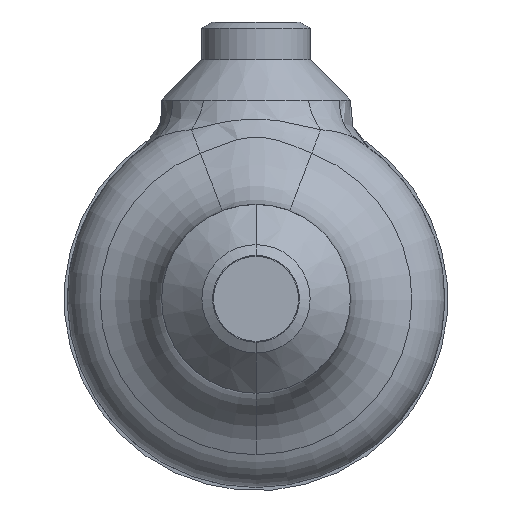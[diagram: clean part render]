
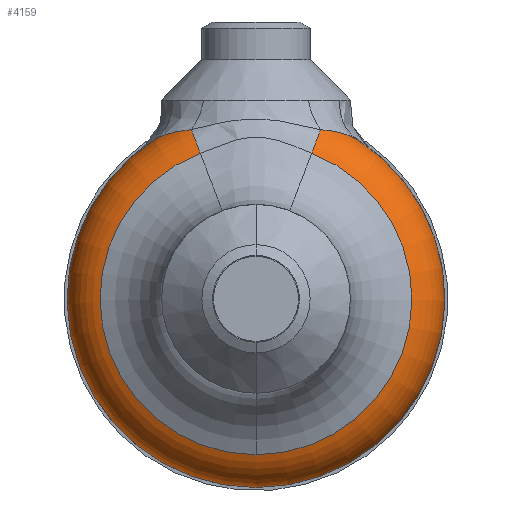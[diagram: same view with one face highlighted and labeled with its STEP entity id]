
A CAD part, front view. The second image highlights one B-rep face of the part: STEP entity #4159.
In plain terms, the highlighted toroidal (fillet/blend) face has major radius 22 mm and minor radius 8 mm.
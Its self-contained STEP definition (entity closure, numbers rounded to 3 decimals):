
#168 = CIRCLE ( 'NONE', #169, 8. ) ;
#169 = AXIS2_PLACEMENT_3D ( 'NONE', #170, #171, #172 ) ;
#170 = CARTESIAN_POINT ( 'NONE',  ( -7.856, -47., 20.55 ) ) ;
#171 = DIRECTION ( 'NONE',  ( -0.934, 0., -0.357 ) ) ;
#172 = DIRECTION ( 'NONE',  ( -0.357, 0., 0.934 ) ) ;
#173 = B_SPLINE_CURVE_WITH_KNOTS ( 'NONE', 3,
 ( #174, #175, #176, #177, #178, #179, #180, #181, #182, #183, #184, #185 ),
 .UNSPECIFIED., .F., .F.,
 ( 4, 2, 2, 2, 2, 4 ),
 ( 0., 0.002, 0.004, 0.006, 0.007, 0.007 ),
 .UNSPECIFIED. ) ;
#174 = CARTESIAN_POINT ( 'NONE',  ( -10.279, -51.237, 26.888 ) ) ;
#175 = CARTESIAN_POINT ( 'NONE',  ( -10.849, -50.979, 26.843 ) ) ;
#176 = CARTESIAN_POINT ( 'NONE',  ( -11.402, -50.696, 26.781 ) ) ;
#177 = CARTESIAN_POINT ( 'NONE',  ( -12.476, -50.082, 26.616 ) ) ;
#178 = CARTESIAN_POINT ( 'NONE',  ( -12.998, -49.75, 26.511 ) ) ;
#179 = CARTESIAN_POINT ( 'NONE',  ( -13.995, -49.038, 26.252 ) ) ;
#180 = CARTESIAN_POINT ( 'NONE',  ( -14.468, -48.662, 26.097 ) ) ;
#181 = CARTESIAN_POINT ( 'NONE',  ( -15.133, -48.065, 25.825 ) ) ;
#182 = CARTESIAN_POINT ( 'NONE',  ( -15.348, -47.86, 25.727 ) ) ;
#183 = CARTESIAN_POINT ( 'NONE',  ( -15.761, -47.438, 25.517 ) ) ;
#184 = CARTESIAN_POINT ( 'NONE',  ( -15.959, -47.221, 25.404 ) ) ;
#185 = CARTESIAN_POINT ( 'NONE',  ( -16.145, -47., 25.285 ) ) ;
#2339 = CARTESIAN_POINT ( 'NONE',  ( 8.849, -54.5, 23.149 ) ) ;
#2383 = CARTESIAN_POINT ( 'NONE',  ( -16.145, -47., 25.285 ) ) ;
#2437 = CIRCLE ( 'NONE', #2438, 24.783 ) ;
#2438 = AXIS2_PLACEMENT_3D ( 'NONE', #2439, #2440, #2441 ) ;
#2439 = CARTESIAN_POINT ( 'NONE',  ( 0., -54.5, 0. ) ) ;
#2440 = DIRECTION ( 'NONE',  ( 0., 1., 0. ) ) ;
#2441 = DIRECTION ( 'NONE',  ( 0., 0., 1. ) ) ;
#2490 = CIRCLE ( 'NONE', #2491, 24.783 ) ;
#2491 = AXIS2_PLACEMENT_3D ( 'NONE', #2492, #2493, #2494 ) ;
#2492 = CARTESIAN_POINT ( 'NONE',  ( 0., -54.5, 0. ) ) ;
#2493 = DIRECTION ( 'NONE',  ( 0., 1., 0. ) ) ;
#2494 = DIRECTION ( 'NONE',  ( 0., 0., 1. ) ) ;
#2977 = CIRCLE ( 'NONE', #2978, 30. ) ;
#2978 = AXIS2_PLACEMENT_3D ( 'NONE', #2979, #2980, #2981 ) ;
#2979 = CARTESIAN_POINT ( 'NONE',  ( 0., -47., 0. ) ) ;
#2980 = DIRECTION ( 'NONE',  ( 0., 1., 0. ) ) ;
#2981 = DIRECTION ( 'NONE',  ( 0., 0., 1. ) ) ;
#3126 = EDGE_CURVE ( 'NONE', #8720, #6831, #2437, .T. ) ;
#3216 = CARTESIAN_POINT ( 'NONE',  ( -10.279, -51.237, 26.888 ) ) ;
#3339 = FACE_OUTER_BOUND ( 'NONE', #4097, .T. ) ;
#3340 = TOROIDAL_SURFACE ( 'NONE', #3341, 22., 8. ) ;
#3341 = AXIS2_PLACEMENT_3D ( 'NONE', #3342, #3343, #3344 ) ;
#3342 = CARTESIAN_POINT ( 'NONE',  ( 0., -47., 0. ) ) ;
#3343 = DIRECTION ( 'NONE',  ( 0., 1., 0. ) ) ;
#3344 = DIRECTION ( 'NONE',  ( 0., 0., 1. ) ) ;
#3428 = CARTESIAN_POINT ( 'NONE',  ( 0., -54.5, -24.783 ) ) ;
#3465 = ORIENTED_EDGE ( 'NONE', *, *, #3126, .T. ) ;
#3642 = VERTEX_POINT ( 'NONE', #3216 ) ;
#3812 = ORIENTED_EDGE ( 'NONE', *, *, #7893, .T. ) ;
#3848 = ORIENTED_EDGE ( 'NONE', *, *, #9950, .T. ) ;
#3882 = EDGE_CURVE ( 'NONE', #5243, #9746, #4751, .T. ) ;
#3905 = ORIENTED_EDGE ( 'NONE', *, *, #3882, .T. ) ;
#3943 = ORIENTED_EDGE ( 'NONE', *, *, #5447, .F. ) ;
#3971 = ORIENTED_EDGE ( 'NONE', *, *, #4070, .F. ) ;
#4002 = EDGE_CURVE ( 'NONE', #3642, #4059, #173, .T. ) ;
#4027 = ORIENTED_EDGE ( 'NONE', *, *, #4002, .T. ) ;
#4059 = VERTEX_POINT ( 'NONE', #2383 ) ;
#4065 = ORIENTED_EDGE ( 'NONE', *, *, #7036, .T. ) ;
#4070 = EDGE_CURVE ( 'NONE', #5039, #4059, #2977, .T. ) ;
#4097 = EDGE_LOOP ( 'NONE', ( #4065, #4027, #3971, #3943, #3905, #3848, #3812, #3465 ) ) ;
#4159 = ADVANCED_FACE ( 'NONE', ( #3339 ), #3340, .T. ) ;
#4313 = CARTESIAN_POINT ( 'NONE',  ( 0., -47., -30. ) ) ;
#4750 = CARTESIAN_POINT ( 'NONE',  ( 16.145, -47., 25.285 ) ) ;
#4751 = B_SPLINE_CURVE_WITH_KNOTS ( 'NONE', 3,
 ( #4752, #4753, #4754, #4755, #4756, #4757, #4758, #4759, #4760, #4761, #4762, #4763 ),
 .UNSPECIFIED., .F., .F.,
 ( 4, 2, 2, 2, 2, 4 ),
 ( 0.074, 0.075, 0.076, 0.078, 0.079, 0.081 ),
 .UNSPECIFIED. ) ;
#4752 = CARTESIAN_POINT ( 'NONE',  ( 16.145, -47., 25.285 ) ) ;
#4753 = CARTESIAN_POINT ( 'NONE',  ( 15.959, -47.221, 25.404 ) ) ;
#4754 = CARTESIAN_POINT ( 'NONE',  ( 15.762, -47.437, 25.516 ) ) ;
#4755 = CARTESIAN_POINT ( 'NONE',  ( 15.348, -47.86, 25.727 ) ) ;
#4756 = CARTESIAN_POINT ( 'NONE',  ( 15.131, -48.067, 25.826 ) ) ;
#4757 = CARTESIAN_POINT ( 'NONE',  ( 14.463, -48.667, 26.099 ) ) ;
#4758 = CARTESIAN_POINT ( 'NONE',  ( 13.991, -49.041, 26.253 ) ) ;
#4759 = CARTESIAN_POINT ( 'NONE',  ( 13.003, -49.746, 26.51 ) ) ;
#4760 = CARTESIAN_POINT ( 'NONE',  ( 12.486, -50.076, 26.614 ) ) ;
#4761 = CARTESIAN_POINT ( 'NONE',  ( 11.409, -50.693, 26.78 ) ) ;
#4762 = CARTESIAN_POINT ( 'NONE',  ( 10.85, -50.978, 26.843 ) ) ;
#4763 = CARTESIAN_POINT ( 'NONE',  ( 10.279, -51.237, 26.888 ) ) ;
#5039 = VERTEX_POINT ( 'NONE', #4313 ) ;
#5243 = VERTEX_POINT ( 'NONE', #4750 ) ;
#5447 = EDGE_CURVE ( 'NONE', #5243, #5039, #10321, .T. ) ;
#6831 = VERTEX_POINT ( 'NONE', #13419 ) ;
#7036 = EDGE_CURVE ( 'NONE', #6831, #3642, #168, .T. ) ;
#7687 = VERTEX_POINT ( 'NONE', #2339 ) ;
#7893 = EDGE_CURVE ( 'NONE', #7687, #8720, #2490, .T. ) ;
#8720 = VERTEX_POINT ( 'NONE', #3428 ) ;
#9746 = VERTEX_POINT ( 'NONE', #10186 ) ;
#9950 = EDGE_CURVE ( 'NONE', #9746, #7687, #10350, .T. ) ;
#10186 = CARTESIAN_POINT ( 'NONE',  ( 10.279, -51.237, 26.888 ) ) ;
#10321 = CIRCLE ( 'NONE', #10322, 30. ) ;
#10322 = AXIS2_PLACEMENT_3D ( 'NONE', #10323, #10324, #10325 ) ;
#10323 = CARTESIAN_POINT ( 'NONE',  ( 0., -47., 0. ) ) ;
#10324 = DIRECTION ( 'NONE',  ( 0., 1., 0. ) ) ;
#10325 = DIRECTION ( 'NONE',  ( 0., 0., 1. ) ) ;
#10350 = CIRCLE ( 'NONE', #10351, 8. ) ;
#10351 = AXIS2_PLACEMENT_3D ( 'NONE', #10352, #10353, #10354 ) ;
#10352 = CARTESIAN_POINT ( 'NONE',  ( 7.856, -47., 20.55 ) ) ;
#10353 = DIRECTION ( 'NONE',  ( 0.934, 0., -0.357 ) ) ;
#10354 = DIRECTION ( 'NONE',  ( 0.357, 0., 0.934 ) ) ;
#13419 = CARTESIAN_POINT ( 'NONE',  ( -8.849, -54.5, 23.149 ) ) ;
